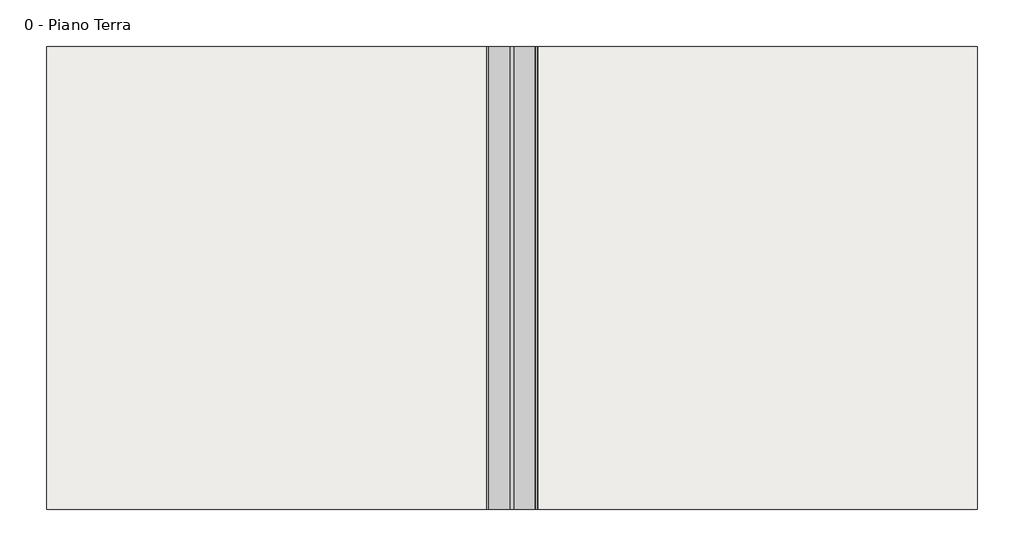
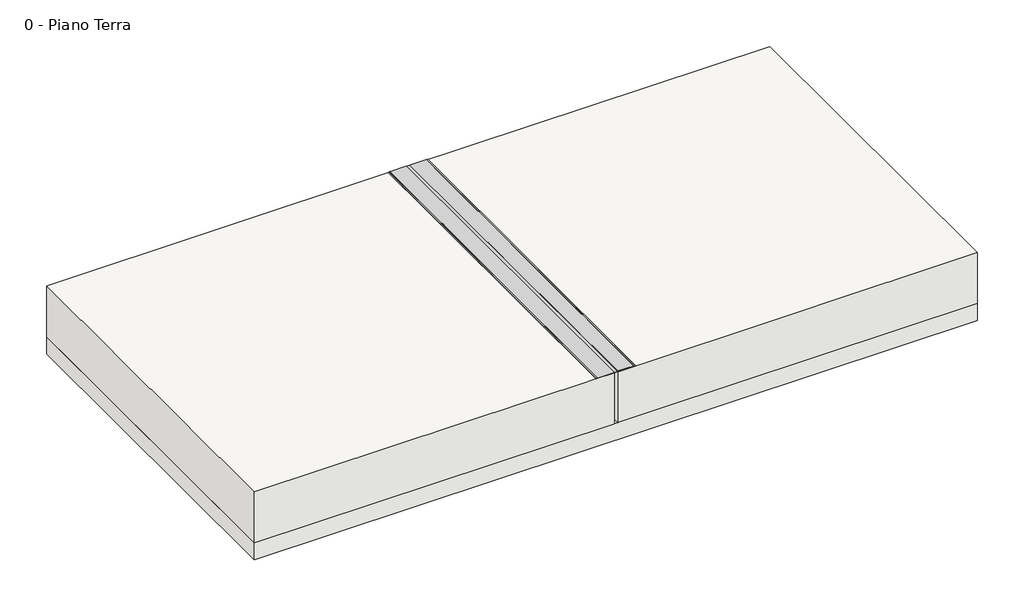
# One storey: 3 slabs, 1 proxy.
"""IFC4 building model written with IfcOpenShell, lengths in millimetres."""

from ifc_helpers import new_model, si_unit, frame, origin, place, context, project, spatial, polyline, outline, extrude, faceted_brep, element, save

model = new_model("IFC4")

# Units and contexts
model_context = context("Model", 3, world=origin())
ifc_project = project(units=[si_unit("LENGTHUNIT", "METRE", prefix="MILLI")], contexts=[model_context])

# Site, building, storey
site = spatial("IfcSite", under=ifc_project)
building = spatial("IfcBuilding", under=site)
storey = spatial("IfcBuildingStorey", under=building, Name="0 - Piano Terra", Elevation=0.0)

# Proxy
placement = place(None, origin())
element("IfcBuildingElementProxy", 1, Name="SISTEMA BI FLEX H.20 VOLTECO", ObjectType="SISTEMA BI FLEX H.20 VOLTECO", at=placement, inside=storey, context=model_context, shape_type="SweptSolid", body=[
    extrude(outline(polyline([(0.0, -1025.4077784), (0.0, -924.4077784), (1.0, -924.4077784), (1.0, -904.4077784), (0.0, -904.4077784), (0.0, -803.4077784), (2.5, -805.9077784), (2.5, -812.9077784), (3.5, -814.4077784), (3.5, -904.4077784), (2.0, -904.4077784), (2.0, -924.4077784), (3.5, -924.4077784), (3.5, -1014.4077784), (2.5, -1015.9077784), (2.5, -1022.9077784), (0.0, -1025.4077784)])), frame((0.0, -5600.0273433, 0.0), z_axis=(0.0, 1.0, 0.0), x_axis=(0.0, 0.0, 1.0)), (0.0, 0.0, 1.0), 2000.0),
])

# Slabs
element("IfcSlab", 2, ObjectType="Pieno in c.a. - 30 cm", at=placement, inside=storey, context=model_context, shape_type="Brep", body=[
    faceted_brep([(-924.4077784, -3600.0273433, -300.0), (-924.4077784, -5600.0273433, -300.0), (-2924.4077784, -5600.0273433, -300.0), (-2924.4077784, -3600.0273433, -300.0), (-924.4077784, -3600.0273433, 0.0), (-1025.4077784, -3600.0273433, 0.0), (-2924.4077784, -3600.0273433, 0.0), (-2924.4077784, -5600.0273433, 0.0), (-1025.4077784, -5600.0273433, 0.0), (-924.4077784, -5600.0273433, 0.0)], [[[0, 1, 2, 3]], [[4, 5, 6, 7, 8, 9]], [[1, 0, 4, 9]], [[2, 1, 9, 8, 7]], [[3, 2, 7, 6]], [[0, 3, 6, 5, 4]]]),
])
element("IfcSlab", 3, ObjectType="Pieno in c.a. - 30 cm", at=placement, inside=storey, context=model_context, shape_type="SweptSolid", body=[
    extrude(outline(polyline([(1095.5922216, -3600.0273433), (1095.5922216, -5600.0273433), (-904.4077784, -5600.0273433), (-904.4077784, -3600.0273433), (1095.5922216, -3600.0273433)])), frame((0.0, 0.0, -300.0), z_axis=(0.0, 0.0, 1.0), x_axis=(1.0, 0.0, 0.0)), (0.0, 0.0, 1.0), 300.0),
])
element("IfcSlab", 4, ObjectType="Magrone - 10 cm", at=placement, inside=storey, context=model_context, shape_type="SweptSolid", body=[
    extrude(outline(polyline([(1095.5922216, -3600.0273433), (1095.5922216, -5600.0273433), (-2924.4077784, -5600.0273433), (-2924.4077784, -3600.0273433), (1095.5922216, -3600.0273433)])), frame((0.0, 0.0, -400.0), z_axis=(0.0, 0.0, 1.0), x_axis=(1.0, 0.0, 0.0)), (0.0, 0.0, 1.0), 100.0),
])

save(model, "model.ifc")
